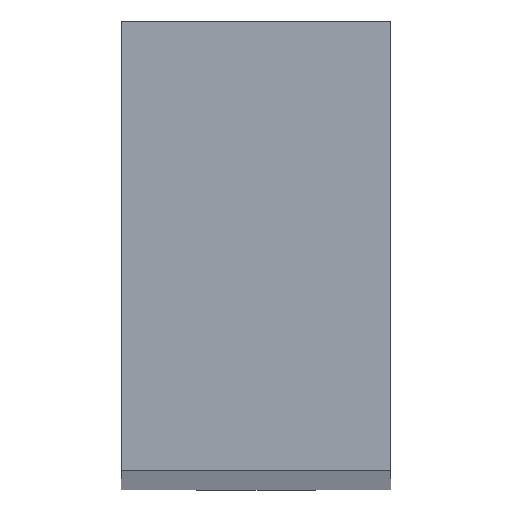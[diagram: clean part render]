
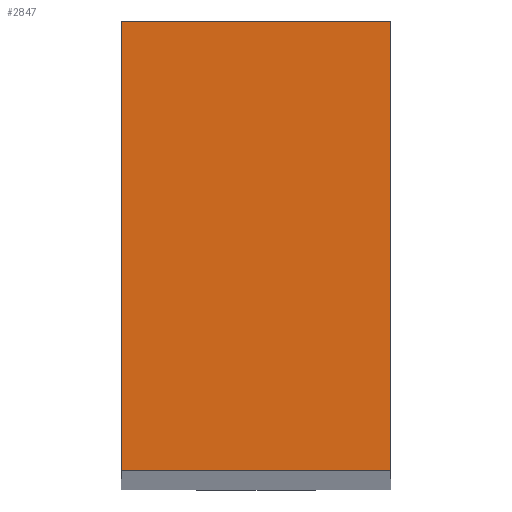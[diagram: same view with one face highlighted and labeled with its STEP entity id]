
A CAD part, top view. The second image highlights one B-rep face of the part: STEP entity #2847.
In plain terms, the highlighted planar face has unit normal (0, 0, 1).
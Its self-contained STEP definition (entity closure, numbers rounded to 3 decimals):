
#95 = LINE ( 'NONE', #2180, #1733 ) ;
#309 = PLANE ( 'NONE',  #1205 ) ;
#545 = CARTESIAN_POINT ( 'NONE',  ( 86., 20., 286. ) ) ;
#779 = VERTEX_POINT ( 'NONE', #4494 ) ;
#832 = CARTESIAN_POINT ( 'NONE',  ( 50., 30., 286. ) ) ;
#1037 = VERTEX_POINT ( 'NONE', #5726 ) ;
#1149 = EDGE_CURVE ( 'NONE', #779, #4161, #95, .T. ) ;
#1157 = ORIENTED_EDGE ( 'NONE', *, *, #4379, .F. ) ;
#1205 = AXIS2_PLACEMENT_3D ( 'NONE', #2437, #4014, #4568 ) ;
#1483 = VECTOR ( 'NONE', #4087, 1000. ) ;
#1733 = VECTOR ( 'NONE', #4829, 1000. ) ;
#1931 = VECTOR ( 'NONE', #6014, 1000. ) ;
#1998 = ORIENTED_EDGE ( 'NONE', *, *, #6509, .F. ) ;
#2117 = LINE ( 'NONE', #545, #4464 ) ;
#2180 = CARTESIAN_POINT ( 'NONE',  ( 56., 45., 286. ) ) ;
#2436 = LINE ( 'NONE', #3504, #1483 ) ;
#2437 = CARTESIAN_POINT ( 'NONE',  ( 86., 0., 286. ) ) ;
#2847 = ADVANCED_FACE ( 'NONE', ( #3541 ), #309, .F. ) ;
#3504 = CARTESIAN_POINT ( 'NONE',  ( 86., 30., 286. ) ) ;
#3541 = FACE_OUTER_BOUND ( 'NONE', #6227, .T. ) ;
#3854 = EDGE_CURVE ( 'NONE', #1037, #6121, #4533, .T. ) ;
#4014 = DIRECTION ( 'NONE',  ( 0., 0., -1. ) ) ;
#4087 = DIRECTION ( 'NONE',  ( 1., 0., 0. ) ) ;
#4161 = VERTEX_POINT ( 'NONE', #4946 ) ;
#4379 = EDGE_CURVE ( 'NONE', #4161, #1037, #2117, .T. ) ;
#4431 = ORIENTED_EDGE ( 'NONE', *, *, #3854, .F. ) ;
#4464 = VECTOR ( 'NONE', #5802, 1000. ) ;
#4494 = CARTESIAN_POINT ( 'NONE',  ( 56., 30., 286. ) ) ;
#4533 = LINE ( 'NONE', #5089, #1931 ) ;
#4568 = DIRECTION ( 'NONE',  ( -1., 0., 0. ) ) ;
#4829 = DIRECTION ( 'NONE',  ( 0., -1., 0. ) ) ;
#4946 = CARTESIAN_POINT ( 'NONE',  ( 56., 20., 286. ) ) ;
#5089 = CARTESIAN_POINT ( 'NONE',  ( 50., 20., 286. ) ) ;
#5297 = ORIENTED_EDGE ( 'NONE', *, *, #1149, .F. ) ;
#5726 = CARTESIAN_POINT ( 'NONE',  ( 50., 20., 286. ) ) ;
#5802 = DIRECTION ( 'NONE',  ( -1., 0., 0. ) ) ;
#6014 = DIRECTION ( 'NONE',  ( 0., 1., 0. ) ) ;
#6121 = VERTEX_POINT ( 'NONE', #832 ) ;
#6227 = EDGE_LOOP ( 'NONE', ( #1998, #4431, #1157, #5297 ) ) ;
#6509 = EDGE_CURVE ( 'NONE', #6121, #779, #2436, .T. ) ;
